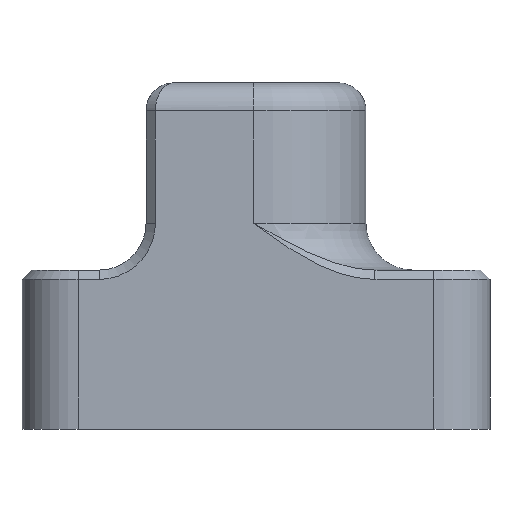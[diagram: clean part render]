
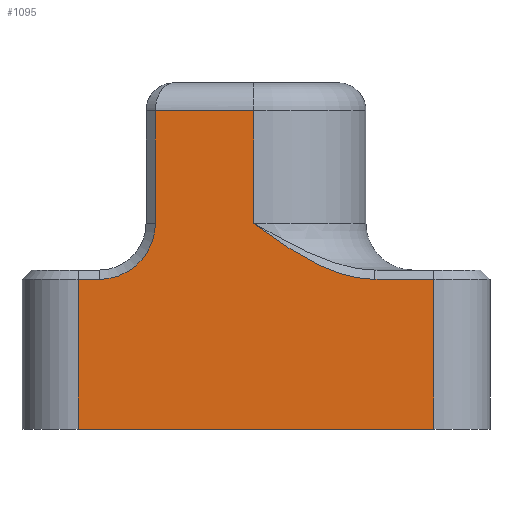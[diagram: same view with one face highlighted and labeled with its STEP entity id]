
A CAD part, left-side view. The second image highlights one B-rep face of the part: STEP entity #1095.
In plain terms, the highlighted planar face has unit normal (-1, 0, 0).
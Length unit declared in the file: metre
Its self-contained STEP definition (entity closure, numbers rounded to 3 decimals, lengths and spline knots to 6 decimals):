
#28=B_SPLINE_CURVE_WITH_KNOTS('',3,(#1707,#1708,#1709,#1710,#1711,#1712,
#1713,#1714,#1715,#1716,#1717),.UNSPECIFIED.,.F.,.F.,(4,1,1,1,1,1,1,1,4),
(0.,0.25,0.375,0.4375,0.5,0.5625,0.625,0.75,1.),.UNSPECIFIED.);
#68=LINE('',#1690,#182);
#69=LINE('',#1693,#183);
#70=LINE('',#1697,#184);
#71=LINE('',#1699,#185);
#72=LINE('',#1701,#186);
#73=LINE('',#1703,#187);
#74=LINE('',#1705,#188);
#75=LINE('',#1719,#189);
#182=VECTOR('',#1338,1.);
#183=VECTOR('',#1339,1.);
#184=VECTOR('',#1342,1.);
#185=VECTOR('',#1343,1.);
#186=VECTOR('',#1344,1.);
#187=VECTOR('',#1345,1.);
#188=VECTOR('',#1346,1.);
#189=VECTOR('',#1347,1.);
#273=PLANE('',#1187);
#348=ORIENTED_EDGE('',*,*,#672,.T.);
#349=ORIENTED_EDGE('',*,*,#673,.T.);
#350=ORIENTED_EDGE('',*,*,#674,.T.);
#351=ORIENTED_EDGE('',*,*,#675,.T.);
#352=ORIENTED_EDGE('',*,*,#676,.T.);
#353=ORIENTED_EDGE('',*,*,#677,.F.);
#354=ORIENTED_EDGE('',*,*,#678,.T.);
#355=ORIENTED_EDGE('',*,*,#679,.T.);
#356=ORIENTED_EDGE('',*,*,#680,.T.);
#357=ORIENTED_EDGE('',*,*,#681,.T.);
#672=EDGE_CURVE('',#834,#835,#68,.T.);
#673=EDGE_CURVE('',#835,#836,#69,.T.);
#674=EDGE_CURVE('',#836,#837,#900,.F.);
#675=EDGE_CURVE('',#837,#838,#70,.T.);
#676=EDGE_CURVE('',#838,#839,#71,.T.);
#677=EDGE_CURVE('',#840,#839,#72,.T.);
#678=EDGE_CURVE('',#840,#841,#73,.F.);
#679=EDGE_CURVE('',#841,#842,#74,.T.);
#680=EDGE_CURVE('',#842,#843,#28,.T.);
#681=EDGE_CURVE('',#843,#834,#75,.F.);
#834=VERTEX_POINT('',#1691);
#835=VERTEX_POINT('',#1692);
#836=VERTEX_POINT('',#1694);
#837=VERTEX_POINT('',#1696);
#838=VERTEX_POINT('',#1698);
#839=VERTEX_POINT('',#1700);
#840=VERTEX_POINT('',#1702);
#841=VERTEX_POINT('',#1704);
#842=VERTEX_POINT('',#1706);
#843=VERTEX_POINT('',#1718);
#900=CIRCLE('',#1188,0.0012);
#935=EDGE_LOOP('',(#348,#349,#350,#351,#352,#353,#354,#355,#356,#357));
#1009=FACE_BOUND('',#935,.T.);
#1095=ADVANCED_FACE('',(#1009),#273,.T.);
#1187=AXIS2_PLACEMENT_3D('',#1689,#1336,#1337);
#1188=AXIS2_PLACEMENT_3D('',#1695,#1340,#1341);
#1336=DIRECTION('',(-1.,0.,0.));
#1337=DIRECTION('',(0.,-1.,0.));
#1338=DIRECTION('',(0.,1.,0.));
#1339=DIRECTION('',(0.,0.,-1.));
#1340=DIRECTION('',(-1.,0.,0.));
#1341=DIRECTION('',(0.,-1.,0.));
#1342=DIRECTION('',(0.,1.,0.));
#1343=DIRECTION('',(0.,0.,-1.));
#1344=DIRECTION('',(0.,1.,0.));
#1345=DIRECTION('',(0.,0.,-1.));
#1346=DIRECTION('',(0.,1.,0.));
#1347=DIRECTION('',(0.,0.,-1.));
#1689=CARTESIAN_POINT('',(-0.00235,0.,0.0034));
#1690=CARTESIAN_POINT('',(-0.00235,0.,0.0068));
#1691=CARTESIAN_POINT('',(-0.00235,0.00005,0.0068));
#1692=CARTESIAN_POINT('',(-0.00235,0.00215,0.0068));
#1693=CARTESIAN_POINT('',(-0.00235,0.00215,0.0044));
#1694=CARTESIAN_POINT('',(-0.00235,0.00215,0.0044));
#1695=CARTESIAN_POINT('',(-0.00235,0.00335,0.0044));
#1696=CARTESIAN_POINT('',(-0.00235,0.00335,0.0032));
#1697=CARTESIAN_POINT('',(-0.00235,0.,0.0032));
#1698=CARTESIAN_POINT('',(-0.00235,0.0038,0.0032));
#1699=CARTESIAN_POINT('',(-0.00235,0.0038,0.));
#1700=CARTESIAN_POINT('',(-0.00235,0.0038,0.));
#1701=CARTESIAN_POINT('',(-0.00235,0.,0.));
#1702=CARTESIAN_POINT('',(-0.00235,-0.0038,0.));
#1703=CARTESIAN_POINT('',(-0.00235,-0.0038,0.0034));
#1704=CARTESIAN_POINT('',(-0.00235,-0.0038,0.0032));
#1705=CARTESIAN_POINT('',(-0.00235,0.,0.0032));
#1706=CARTESIAN_POINT('',(-0.00235,-0.002542,0.0032));
#1707=CARTESIAN_POINT('',(-0.00235,-0.002542,0.0032));
#1708=CARTESIAN_POINT('',(-0.00235,-0.002322,0.003203));
#1709=CARTESIAN_POINT('',(-0.00235,-0.001986,0.003254));
#1710=CARTESIAN_POINT('',(-0.00235,-0.001573,0.003399));
#1711=CARTESIAN_POINT('',(-0.00235,-0.001345,0.003498));
#1712=CARTESIAN_POINT('',(-0.00235,-0.001139,0.003603));
#1713=CARTESIAN_POINT('',(-0.00235,-0.001059,0.003649));
#1714=CARTESIAN_POINT('',(-0.00235,-0.000887,0.00375));
#1715=CARTESIAN_POINT('',(-0.00235,-0.000568,0.003956));
#1716=CARTESIAN_POINT('',(-0.00235,-0.000215,0.004205));
#1717=CARTESIAN_POINT('',(-0.00235,0.00005,0.0044));
#1718=CARTESIAN_POINT('',(-0.00235,0.00005,0.0044));
#1719=CARTESIAN_POINT('',(-0.00235,0.00005,0.0034));
